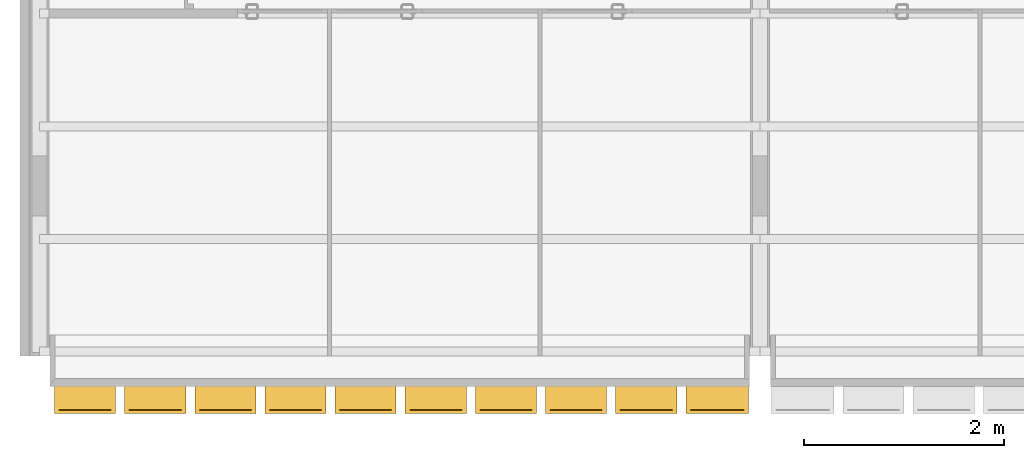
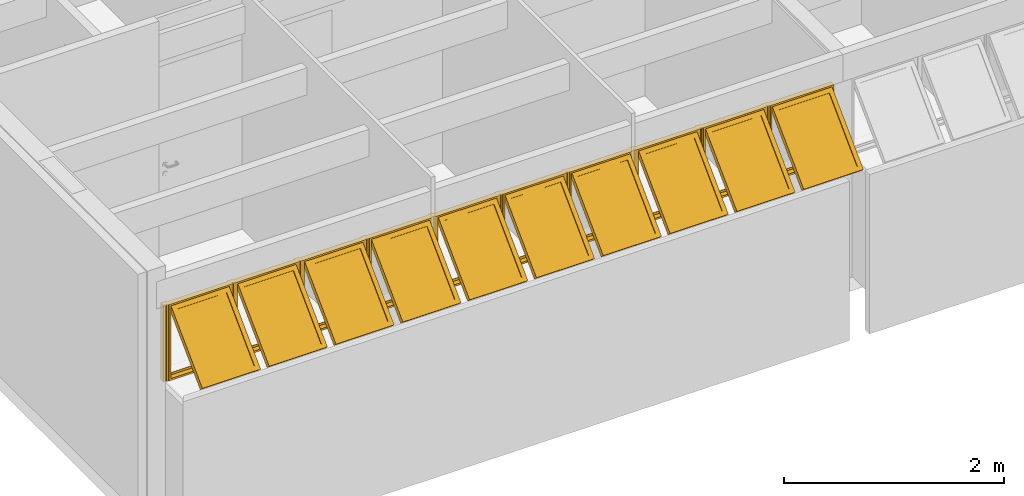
# One storey, part 15 of 22: 1 window.
"""IFC2X3 building model written with IfcOpenShell, lengths in millimetres."""

from ifc_helpers import new_model, si_unit, direction, frame, frame_2d, origin_with_axes, origin_2d_with_axis, place, context, subcontext, project, spatial, polyline, rectangle, outline, extrude, source, transform, mapped, type_object, type_shapes, element, save


model = new_model("IFC2X3")

# Units and contexts
model_context = context("Model", 3, precision=1e-05, world=origin_with_axes(), true_north=direction((0.0, 1.0)))
body_context = subcontext(model_context, "Body", "Model", "MODEL_VIEW")
ifc_project = project(units=[si_unit("LENGTHUNIT", "METRE", prefix="MILLI"), si_unit("AREAUNIT", "SQUARE_METRE"), si_unit("VOLUMEUNIT", "CUBIC_METRE"), si_unit("PLANEANGLEUNIT", "RADIAN"), si_unit("TIMEUNIT", "SECOND"), si_unit("MASSUNIT", "GRAM")], contexts=[model_context])

# Site, building, storey
site_placement = place(None, origin_with_axes())
site = spatial("IfcSite", under=ifc_project, at=site_placement, Name="Site", CompositionType="ELEMENT")
building_placement = place(site_placement, origin_with_axes())
building = spatial("IfcBuilding", under=site, at=building_placement, Name="Construção", CompositionType="COMPLEX")
storey_placement = place(building_placement, frame((0.0, 0.0, 2650.0), z_axis=(0.0, 0.0, 1.0), x_axis=(1.0, 0.0, 0.0)))
storey = spatial("IfcBuildingStorey", under=building, at=storey_placement, Name="Segundo Pavimento", CompositionType="COMPLEX", Elevation=2650.0)

# Window
window_style = type_object("IfcWindowStyle", ConstructionType="NOTDEFINED", OperationType="NOTDEFINED", ParameterTakesPrecedence=False, Sizeable=False)
shared_shape_1 = source(origin_with_axes(), body_context, "Body", "SweptSolid", [
    extrude(outline(polyline([(-324.99999695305, -22.5), (-279.99999695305, 22.5), (279.99999695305, 22.5), (324.99999695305, -22.5), (-324.99999695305, -22.5)])), frame((350.00000059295, 22.5, -40.0), z_axis=(0.0, 0.0, 1.0), x_axis=(1.0, 0.0, 0.0)), (0.0, 0.0, 1.0), 5.0),
    extrude(outline(polyline([(22.5, -422.499945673), (-22.5, -377.499945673), (-22.5, 377.499945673), (22.5, 422.499945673), (22.5, -422.499945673)])), frame((652.499997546, 422.499945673, -40.0), z_axis=(0.0, 0.0, 1.0), x_axis=(1.0, 0.0, 0.0)), (0.0, 0.0, 1.0), 5.0),
    extrude(outline(polyline([(-324.9999969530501, 22.5), (324.99999695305, 22.5), (279.99999695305, -22.5), (-279.9999969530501, -22.5), (-324.9999969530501, 22.5)])), frame((350.0000005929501, 822.499891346, -40.0), z_axis=(0.0, 0.0, 1.0), x_axis=(1.0, 0.0, 0.0)), (0.0, 0.0, 1.0), 5.0),
    extrude(outline(polyline([(-22.5, -422.499945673), (-22.5, 422.499945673), (22.5, 377.499945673), (22.5, -377.499945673), (-22.5, -422.499945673)])), frame((47.5000036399, 422.499945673, -40.0), z_axis=(0.0, 0.0, 1.0), x_axis=(1.0, 0.0, 0.0)), (0.0, 0.0, 1.0), 5.0),
    extrude(outline(polyline([(-324.99999695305, -10.0), (-304.99999695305, 10.0), (304.99999695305, 10.0), (324.99999695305, -10.0), (-324.99999695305, -10.0)])), frame((350.00000059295, 10.0, -35.0), z_axis=(0.0, 0.0, 1.0), x_axis=(1.0, 0.0, 0.0)), (0.0, 0.0, 1.0), 50.0),
    extrude(outline(polyline([(10.0, -422.499945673), (-10.0, -402.499945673), (-10.0, 402.499945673), (10.0, 422.499945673), (10.0, -422.499945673)])), frame((664.999997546, 422.499945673, -35.0), z_axis=(0.0, 0.0, 1.0), x_axis=(1.0, 0.0, 0.0)), (0.0, 0.0, 1.0), 50.0),
    extrude(outline(polyline([(-324.9999969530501, 10.0), (324.99999695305, 10.0), (304.99999695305, -10.0), (-304.9999969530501, -10.0), (-324.9999969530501, 10.0)])), frame((350.0000005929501, 834.999891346, -35.0), z_axis=(0.0, 0.0, 1.0), x_axis=(1.0, 0.0, 0.0)), (0.0, 0.0, 1.0), 50.0),
    extrude(outline(polyline([(-10.0, -422.499945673), (-10.0, 422.499945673), (10.0, 402.499945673), (10.0, -402.499945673), (-10.0, -422.499945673)])), frame((35.0000036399, 422.499945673, -35.0), z_axis=(0.0, 0.0, 1.0), x_axis=(1.0, 0.0, 0.0)), (0.0, 0.0, 1.0), 50.0),
    extrude(rectangle(XDim=844.999891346, YDim=19.99999787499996, at=frame_2d((0.0, 0.0), x_axis=(0.0, 1.0))), frame((684.9999964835, 422.499945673, -10.0), z_axis=(0.0, 0.0, 1.0), x_axis=(1.0, 0.0, 0.0)), (0.0, 0.0, 1.0), 20.0),
    extrude(rectangle(XDim=844.999891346, YDim=19.99999787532, at=frame_2d((0.0, 0.0), x_axis=(0.0, 1.0))), frame((15.00000470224, 422.499945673, -10.0), z_axis=(0.0, 0.0, 1.0), x_axis=(1.0, 0.0, 0.0)), (0.0, 0.0, 1.0), 20.0),
    extrude(outline(polyline([(22.5, -357.4999456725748), (-22.5, -402.4999456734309), (-22.50000000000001, 402.4999456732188), (22.5, 357.499945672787), (22.5, -357.4999456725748)])), frame((67.5000036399, 505.034111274, 264.2551019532), z_axis=(4.714640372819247e-12, 0.7071067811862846, 0.7071067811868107), x_axis=(1.0, 0.0, 0.0)), (0.0, 0.0, 1.0), 55.00000000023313),
    extrude(outline(polyline([(22.5, -402.4999456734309), (-22.5, -357.4999456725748), (-22.50000000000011, 357.499945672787), (22.5, 402.4999456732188), (22.5, -402.4999456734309)])), frame((632.499997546, 505.034111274, 264.2551019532), z_axis=(4.714640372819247e-12, 0.7071067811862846, 0.7071067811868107), x_axis=(1.0, 0.0, 0.0)), (0.0, 0.0, 1.0), 55.00000000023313),
    extrude(outline(polyline([(304.99999695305, -22.50000000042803), (-304.9999969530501, -22.50000000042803), (-259.9999969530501, 22.50000000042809), (259.99999695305, 22.50000000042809), (304.99999695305, -22.50000000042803)])), frame((350.00000059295, 236.333572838, 532.955640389), z_axis=(4.714640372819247e-12, 0.7071067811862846, 0.7071067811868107), x_axis=(1.0, 0.0, 0.0)), (0.0, 0.0, 1.0), 55.00000000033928),
    extrude(outline(polyline([(-304.9999969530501, 22.500000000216), (304.99999695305, 22.500000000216), (259.99999695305, -22.500000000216), (-259.9999969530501, -22.500000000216), (-304.9999969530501, 22.500000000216)])), frame((350.0000005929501, 773.73464971, -4.4454364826), z_axis=(4.714640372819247e-12, 0.7071067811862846, 0.7071067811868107), x_axis=(1.0, 0.0, 0.0)), (0.0, 0.0, 1.0), 55.00000000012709),
])
shared_shape_2 = source(origin_with_axes(), body_context, "Body", "SweptSolid", [
    extrude(rectangle(XDim=519.9999939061, YDim=16.00000000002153, at=origin_2d_with_axis()), frame((350.00000059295, 783.9876980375, 37.627416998), z_axis=(0.0, -0.7071067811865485, 0.7071067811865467), x_axis=(1.0, 0.0, 0.0)), (0.0, 0.0, 1.0), 714.9998913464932),
])
shared_shape_3 = source(origin_with_axes(), body_context, "Body", "MappedRepresentation", [
    mapped(shared_shape_1, transform((5900.0, 315.020977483, 4005.02054151), x_axis=(1.0, 0.0, 0.0), y_axis=(0.0, 0.0, 1.0), z_axis=(0.0, -1.0, 0.0), scale=1.0)),
    mapped(shared_shape_2, transform((5900.0, 315.020977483, 4005.02054151), x_axis=(1.0, 0.0, 0.0), y_axis=(0.0, 0.0, 1.0), z_axis=(0.0, -1.0, 0.0), scale=1.0)),
])
shared_shape_4 = source(origin_with_axes(), body_context, "Body", "SweptSolid", [
    extrude(outline(polyline([(-332.50003730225, -22.5), (-287.50003730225, 22.5), (287.50003730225, 22.5), (332.50003730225, -22.5), (-332.50003730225, -22.5)])), frame((357.50004190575, 22.5, -40.0), z_axis=(0.0, 0.0, 1.0), x_axis=(1.0, 0.0, 0.0)), (0.0, 0.0, 1.0), 5.0),
    extrude(outline(polyline([(22.5, -422.499961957), (-22.5, -377.499961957), (-22.5, 377.499961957), (22.5, 422.499961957), (22.5, -422.499961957)])), frame((667.500079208, 422.499961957, -40.0), z_axis=(0.0, 0.0, 1.0), x_axis=(1.0, 0.0, 0.0)), (0.0, 0.0, 1.0), 5.0),
    extrude(outline(polyline([(-332.50003730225, 22.5), (332.50003730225, 22.5), (287.50003730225, -22.5), (-287.50003730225, -22.5), (-332.50003730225, 22.5)])), frame((357.50004190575, 822.499923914, -40.0), z_axis=(0.0, 0.0, 1.0), x_axis=(1.0, 0.0, 0.0)), (0.0, 0.0, 1.0), 5.0),
    extrude(outline(polyline([(-22.5, -422.499961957), (-22.5, 422.499961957), (22.5, 377.499961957), (22.5, -377.499961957), (-22.5, -422.499961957)])), frame((47.5000046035, 422.499961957, -40.0), z_axis=(0.0, 0.0, 1.0), x_axis=(1.0, 0.0, 0.0)), (0.0, 0.0, 1.0), 5.0),
    extrude(outline(polyline([(-332.50003730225, -10.0), (-312.50003730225, 10.0), (312.50003730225, 10.0), (332.50003730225, -10.0), (-332.50003730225, -10.0)])), frame((357.50004190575, 10.0, -35.0), z_axis=(0.0, 0.0, 1.0), x_axis=(1.0, 0.0, 0.0)), (0.0, 0.0, 1.0), 50.0),
    extrude(outline(polyline([(10.0, -422.499961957), (-10.0, -402.499961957), (-10.0, 402.499961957), (10.0, 422.499961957), (10.0, -422.499961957)])), frame((680.000079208, 422.499961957, -35.0), z_axis=(0.0, 0.0, 1.0), x_axis=(1.0, 0.0, 0.0)), (0.0, 0.0, 1.0), 50.0),
    extrude(outline(polyline([(-332.50003730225, 10.0), (332.50003730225, 10.0), (312.50003730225, -10.0), (-312.50003730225, -10.0), (-332.50003730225, 10.0)])), frame((357.50004190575, 834.999923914, -35.0), z_axis=(0.0, 0.0, 1.0), x_axis=(1.0, 0.0, 0.0)), (0.0, 0.0, 1.0), 50.0),
    extrude(outline(polyline([(-10.0, -422.499961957), (-10.0, 422.499961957), (10.0, 402.499961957), (10.0, -402.499961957), (-10.0, -422.499961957)])), frame((35.0000046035, 422.499961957, -35.0), z_axis=(0.0, 0.0, 1.0), x_axis=(1.0, 0.0, 0.0)), (0.0, 0.0, 1.0), 50.0),
    extrude(rectangle(XDim=844.999923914, YDim=19.99999864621, at=frame_2d((0.0, 0.0), x_axis=(0.0, 1.0))), frame((15.000005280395, 422.499961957, -10.0), z_axis=(0.0, 0.0, 1.0), x_axis=(1.0, 0.0, 0.0)), (0.0, 0.0, 1.0), 20.0),
    extrude(outline(polyline([(22.5, -357.49996195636), (-22.50000000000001, -402.4999619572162), (-22.50000000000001, 402.4999619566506), (22.49999999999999, 357.4999619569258), (22.5, -357.49996195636)])), frame((67.5000046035, 505.0341323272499, 264.2551134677), z_axis=(4.714640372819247e-12, 0.7071067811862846, 0.7071067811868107), x_axis=(1.0, 0.0, 0.0)), (0.0, 0.0, 1.0), 54.99999999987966),
    extrude(outline(polyline([(22.5, -402.4999619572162), (-22.50000000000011, -357.4999619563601), (-22.50000000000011, 357.4999619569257), (22.5, 402.4999619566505), (22.5, -402.4999619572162)])), frame((647.500079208, 505.03413232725, 264.2551134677), z_axis=(4.714640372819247e-12, 0.7071067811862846, 0.7071067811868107), x_axis=(1.0, 0.0, 0.0)), (0.0, 0.0, 1.0), 54.99999999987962),
    extrude(outline(polyline([(312.50003730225, -22.50000000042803), (-312.50003730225, -22.50000000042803), (-267.50003730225, 22.50000000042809), (267.50003730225, 22.50000000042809), (312.50003730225, -22.50000000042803)])), frame((357.50004190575, 236.333582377, 532.955663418), z_axis=(4.714640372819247e-12, 0.7071067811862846, 0.7071067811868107), x_axis=(1.0, 0.0, 0.0)), (0.0, 0.0, 1.0), 54.9999999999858),
    extrude(outline(polyline([(-312.50003730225, 22.49999999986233), (312.50003730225, 22.49999999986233), (267.50003730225, -22.49999999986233), (-267.50003730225, -22.49999999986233), (-312.50003730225, 22.49999999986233)])), frame((357.50004190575, 773.7346822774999, -4.4454364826), z_axis=(4.714640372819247e-12, 0.7071067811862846, 0.7071067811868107), x_axis=(1.0, 0.0, 0.0)), (0.0, 0.0, 1.0), 54.99999999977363),
])
shared_shape_5 = source(origin_with_axes(), body_context, "Body", "SweptSolid", [
    extrude(rectangle(XDim=535.0000746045, YDim=16.00000000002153, at=origin_2d_with_axis()), frame((357.50004190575, 783.9877306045, 37.627416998), z_axis=(0.0, -0.7071067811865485, 0.7071067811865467), x_axis=(1.0, 0.0, 0.0)), (0.0, 0.0, 1.0), 714.9999239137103),
])
shared_shape_6 = source(origin_with_axes(), body_context, "Body", "MappedRepresentation", [
    mapped(shared_shape_4, transform((6600.0, 315.020977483, 4005.020541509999), x_axis=(1.0, 0.0, 0.0), y_axis=(0.0, 0.0, 1.0), z_axis=(0.0, -1.0, 0.0), scale=1.0)),
    mapped(shared_shape_5, transform((6600.0, 315.020977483, 4005.020541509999), x_axis=(1.0, 0.0, 0.0), y_axis=(0.0, 0.0, 1.0), z_axis=(0.0, -1.0, 0.0), scale=1.0)),
])
shared_shape_7 = source(origin_with_axes(), body_context, "Body", "SweptSolid", [
    extrude(outline(polyline([(-324.99999695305, -22.5), (-279.99999695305, 22.5), (279.99999695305, 22.5), (324.99999695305, -22.5), (-324.99999695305, -22.5)])), frame((350.00000059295, 22.5, -40.0), z_axis=(0.0, 0.0, 1.0), x_axis=(1.0, 0.0, 0.0)), (0.0, 0.0, 1.0), 5.0),
    extrude(outline(polyline([(22.5, -422.499945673), (-22.5, -377.499945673), (-22.5, 377.499945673), (22.5, 422.499945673), (22.5, -422.499945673)])), frame((652.499997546, 422.499945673, -40.0), z_axis=(0.0, 0.0, 1.0), x_axis=(1.0, 0.0, 0.0)), (0.0, 0.0, 1.0), 5.0),
    extrude(outline(polyline([(-324.9999969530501, 22.5), (324.99999695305, 22.5), (279.99999695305, -22.5), (-279.9999969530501, -22.5), (-324.9999969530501, 22.5)])), frame((350.0000005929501, 822.499891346, -40.0), z_axis=(0.0, 0.0, 1.0), x_axis=(1.0, 0.0, 0.0)), (0.0, 0.0, 1.0), 5.0),
    extrude(outline(polyline([(-22.5, -422.499945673), (-22.5, 422.499945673), (22.5, 377.499945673), (22.5, -377.499945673), (-22.5, -422.499945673)])), frame((47.5000036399, 422.499945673, -40.0), z_axis=(0.0, 0.0, 1.0), x_axis=(1.0, 0.0, 0.0)), (0.0, 0.0, 1.0), 5.0),
    extrude(outline(polyline([(-324.99999695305, -10.0), (-304.99999695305, 10.0), (304.99999695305, 10.0), (324.99999695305, -10.0), (-324.99999695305, -10.0)])), frame((350.00000059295, 10.0, -35.0), z_axis=(0.0, 0.0, 1.0), x_axis=(1.0, 0.0, 0.0)), (0.0, 0.0, 1.0), 50.0),
    extrude(outline(polyline([(10.0, -422.499945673), (-10.0, -402.499945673), (-10.0, 402.499945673), (10.0, 422.499945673), (10.0, -422.499945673)])), frame((664.999997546, 422.499945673, -35.0), z_axis=(0.0, 0.0, 1.0), x_axis=(1.0, 0.0, 0.0)), (0.0, 0.0, 1.0), 50.0),
    extrude(outline(polyline([(-324.9999969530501, 10.0), (324.99999695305, 10.0), (304.99999695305, -10.0), (-304.9999969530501, -10.0), (-324.9999969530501, 10.0)])), frame((350.0000005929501, 834.999891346, -35.0), z_axis=(0.0, 0.0, 1.0), x_axis=(1.0, 0.0, 0.0)), (0.0, 0.0, 1.0), 50.0),
    extrude(outline(polyline([(-10.0, -422.499945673), (-10.0, 422.499945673), (10.0, 402.499945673), (10.0, -402.499945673), (-10.0, -422.499945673)])), frame((35.0000036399, 422.499945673, -35.0), z_axis=(0.0, 0.0, 1.0), x_axis=(1.0, 0.0, 0.0)), (0.0, 0.0, 1.0), 50.0),
    extrude(rectangle(XDim=844.999891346, YDim=19.99999787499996, at=frame_2d((0.0, 0.0), x_axis=(0.0, 1.0))), frame((684.9999964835, 422.499945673, -10.0), z_axis=(0.0, 0.0, 1.0), x_axis=(1.0, 0.0, 0.0)), (0.0, 0.0, 1.0), 20.0),
    extrude(rectangle(XDim=844.999891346, YDim=19.99999787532, at=frame_2d((0.0, 0.0), x_axis=(0.0, 1.0))), frame((15.00000470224, 422.499945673, -10.0), z_axis=(0.0, 0.0, 1.0), x_axis=(1.0, 0.0, 0.0)), (0.0, 0.0, 1.0), 20.0),
    extrude(outline(polyline([(22.5, -357.4999456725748), (-22.5, -402.4999456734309), (-22.50000000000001, 402.4999456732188), (22.5, 357.499945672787), (22.5, -357.4999456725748)])), frame((67.5000036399, 505.034111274, 264.2551019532), z_axis=(4.714640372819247e-12, 0.7071067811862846, 0.7071067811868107), x_axis=(1.0, 0.0, 0.0)), (0.0, 0.0, 1.0), 55.00000000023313),
    extrude(outline(polyline([(22.5, -402.4999456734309), (-22.5, -357.4999456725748), (-22.50000000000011, 357.499945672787), (22.5, 402.4999456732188), (22.5, -402.4999456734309)])), frame((632.499997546, 505.034111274, 264.2551019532), z_axis=(4.714640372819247e-12, 0.7071067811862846, 0.7071067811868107), x_axis=(1.0, 0.0, 0.0)), (0.0, 0.0, 1.0), 55.00000000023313),
    extrude(outline(polyline([(304.99999695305, -22.50000000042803), (-304.9999969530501, -22.50000000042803), (-259.9999969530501, 22.50000000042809), (259.99999695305, 22.50000000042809), (304.99999695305, -22.50000000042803)])), frame((350.00000059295, 236.333572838, 532.955640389), z_axis=(4.714640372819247e-12, 0.7071067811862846, 0.7071067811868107), x_axis=(1.0, 0.0, 0.0)), (0.0, 0.0, 1.0), 55.00000000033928),
    extrude(outline(polyline([(-304.9999969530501, 22.500000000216), (304.99999695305, 22.500000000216), (259.99999695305, -22.500000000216), (-259.9999969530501, -22.500000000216), (-304.9999969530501, 22.500000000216)])), frame((350.0000005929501, 773.73464971, -4.4454364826), z_axis=(4.714640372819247e-12, 0.7071067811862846, 0.7071067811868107), x_axis=(1.0, 0.0, 0.0)), (0.0, 0.0, 1.0), 55.00000000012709),
])
shared_shape_8 = source(origin_with_axes(), body_context, "Body", "SweptSolid", [
    extrude(rectangle(XDim=519.9999939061, YDim=16.00000000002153, at=origin_2d_with_axis()), frame((350.00000059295, 783.9876980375, 37.627416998), z_axis=(0.0, -0.7071067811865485, 0.7071067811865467), x_axis=(1.0, 0.0, 0.0)), (0.0, 0.0, 1.0), 714.9998913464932),
])
shared_shape_9 = source(origin_with_axes(), body_context, "Body", "MappedRepresentation", [
    mapped(shared_shape_7, transform((300.0, 315.020977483, 4005.02054151), x_axis=(1.0, 0.0, 0.0), y_axis=(0.0, 0.0, 1.0), z_axis=(0.0, -1.0, 0.0), scale=1.0)),
    mapped(shared_shape_8, transform((300.0, 315.020977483, 4005.02054151), x_axis=(1.0, 0.0, 0.0), y_axis=(0.0, 0.0, 1.0), z_axis=(0.0, -1.0, 0.0), scale=1.0)),
])
shared_shape_10 = source(origin_with_axes(), body_context, "Body", "MappedRepresentation", [
    mapped(shared_shape_7, transform((1000.0, 315.020977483, 4005.02054151), x_axis=(1.0, 0.0, 0.0), y_axis=(0.0, 0.0, 1.0), z_axis=(0.0, -1.0, 0.0), scale=1.0)),
    mapped(shared_shape_8, transform((1000.0, 315.020977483, 4005.02054151), x_axis=(1.0, 0.0, 0.0), y_axis=(0.0, 0.0, 1.0), z_axis=(0.0, -1.0, 0.0), scale=1.0)),
])
shared_shape_11 = source(origin_with_axes(), body_context, "Body", "SweptSolid", [
    extrude(outline(polyline([(-324.99999695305, -22.5), (-279.99999695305, 22.5), (279.99999695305, 22.5), (324.99999695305, -22.5), (-324.99999695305, -22.5)])), frame((350.00000059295, 22.5, -40.0), z_axis=(0.0, 0.0, 1.0), x_axis=(1.0, 0.0, 0.0)), (0.0, 0.0, 1.0), 5.0),
    extrude(outline(polyline([(22.5, -422.499945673), (-22.5, -377.499945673), (-22.5, 377.499945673), (22.5, 422.499945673), (22.5, -422.499945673)])), frame((652.499997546, 422.499945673, -40.0), z_axis=(0.0, 0.0, 1.0), x_axis=(1.0, 0.0, 0.0)), (0.0, 0.0, 1.0), 5.0),
    extrude(outline(polyline([(-324.9999969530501, 22.5), (324.99999695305, 22.5), (279.99999695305, -22.5), (-279.9999969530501, -22.5), (-324.9999969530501, 22.5)])), frame((350.0000005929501, 822.499891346, -40.0), z_axis=(0.0, 0.0, 1.0), x_axis=(1.0, 0.0, 0.0)), (0.0, 0.0, 1.0), 5.0),
    extrude(outline(polyline([(-22.5, -422.499945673), (-22.5, 422.499945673), (22.5, 377.499945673), (22.5, -377.499945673), (-22.5, -422.499945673)])), frame((47.5000036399, 422.499945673, -40.0), z_axis=(0.0, 0.0, 1.0), x_axis=(1.0, 0.0, 0.0)), (0.0, 0.0, 1.0), 5.0),
    extrude(outline(polyline([(-324.99999695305, -10.0), (-304.99999695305, 10.0), (304.99999695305, 10.0), (324.99999695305, -10.0), (-324.99999695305, -10.0)])), frame((350.00000059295, 10.0, -35.0), z_axis=(0.0, 0.0, 1.0), x_axis=(1.0, 0.0, 0.0)), (0.0, 0.0, 1.0), 50.0),
    extrude(outline(polyline([(10.0, -422.499945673), (-10.0, -402.499945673), (-10.0, 402.499945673), (10.0, 422.499945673), (10.0, -422.499945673)])), frame((664.999997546, 422.499945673, -35.0), z_axis=(0.0, 0.0, 1.0), x_axis=(1.0, 0.0, 0.0)), (0.0, 0.0, 1.0), 50.0),
    extrude(outline(polyline([(-324.9999969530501, 10.0), (324.99999695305, 10.0), (304.99999695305, -10.0), (-304.9999969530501, -10.0), (-324.9999969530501, 10.0)])), frame((350.0000005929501, 834.999891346, -35.0), z_axis=(0.0, 0.0, 1.0), x_axis=(1.0, 0.0, 0.0)), (0.0, 0.0, 1.0), 50.0),
    extrude(outline(polyline([(-10.0, -422.499945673), (-10.0, 422.499945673), (10.0, 402.499945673), (10.0, -402.499945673), (-10.0, -422.499945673)])), frame((35.0000036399, 422.499945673, -35.0), z_axis=(0.0, 0.0, 1.0), x_axis=(1.0, 0.0, 0.0)), (0.0, 0.0, 1.0), 50.0),
    extrude(rectangle(XDim=844.999891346, YDim=19.99999787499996, at=frame_2d((0.0, 0.0), x_axis=(0.0, 1.0))), frame((684.9999964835, 422.499945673, -10.0), z_axis=(0.0, 0.0, 1.0), x_axis=(1.0, 0.0, 0.0)), (0.0, 0.0, 1.0), 20.0),
    extrude(rectangle(XDim=844.999891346, YDim=19.99999787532, at=frame_2d((0.0, 0.0), x_axis=(0.0, 1.0))), frame((15.00000470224, 422.499945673, -10.0), z_axis=(0.0, 0.0, 1.0), x_axis=(1.0, 0.0, 0.0)), (0.0, 0.0, 1.0), 20.0),
    extrude(outline(polyline([(22.5, -357.4999456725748), (-22.5, -402.4999456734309), (-22.50000000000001, 402.4999456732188), (22.5, 357.499945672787), (22.5, -357.4999456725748)])), frame((67.5000036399, 505.034111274, 264.2551019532), z_axis=(4.714640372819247e-12, 0.7071067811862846, 0.7071067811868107), x_axis=(1.0, 0.0, 0.0)), (0.0, 0.0, 1.0), 55.00000000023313),
    extrude(outline(polyline([(22.5, -402.4999456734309), (-22.5, -357.4999456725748), (-22.50000000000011, 357.499945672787), (22.5, 402.4999456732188), (22.5, -402.4999456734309)])), frame((632.499997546, 505.034111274, 264.2551019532), z_axis=(4.714640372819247e-12, 0.7071067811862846, 0.7071067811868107), x_axis=(1.0, 0.0, 0.0)), (0.0, 0.0, 1.0), 55.00000000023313),
    extrude(outline(polyline([(304.99999695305, -22.50000000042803), (-304.9999969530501, -22.50000000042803), (-259.9999969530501, 22.50000000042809), (259.99999695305, 22.50000000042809), (304.99999695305, -22.50000000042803)])), frame((350.00000059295, 236.333572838, 532.955640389), z_axis=(4.714640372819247e-12, 0.7071067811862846, 0.7071067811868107), x_axis=(1.0, 0.0, 0.0)), (0.0, 0.0, 1.0), 55.00000000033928),
    extrude(outline(polyline([(-304.9999969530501, 22.500000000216), (304.99999695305, 22.500000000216), (259.99999695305, -22.500000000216), (-259.9999969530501, -22.500000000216), (-304.9999969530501, 22.500000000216)])), frame((350.0000005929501, 773.73464971, -4.4454364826), z_axis=(4.714640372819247e-12, 0.7071067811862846, 0.7071067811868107), x_axis=(1.0, 0.0, 0.0)), (0.0, 0.0, 1.0), 55.00000000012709),
])
shared_shape_12 = source(origin_with_axes(), body_context, "Body", "SweptSolid", [
    extrude(rectangle(XDim=519.9999939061, YDim=16.00000000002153, at=origin_2d_with_axis()), frame((350.00000059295, 783.9876980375, 37.627416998), z_axis=(0.0, -0.7071067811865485, 0.7071067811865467), x_axis=(1.0, 0.0, 0.0)), (0.0, 0.0, 1.0), 714.9998913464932),
])
shared_shape_13 = source(origin_with_axes(), body_context, "Body", "MappedRepresentation", [
    mapped(shared_shape_11, transform((3100.0, 315.020977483, 4005.02054151), x_axis=(1.0, 0.0, 0.0), y_axis=(0.0, 0.0, 1.0), z_axis=(0.0, -1.0, 0.0), scale=1.0)),
    mapped(shared_shape_12, transform((3100.0, 315.020977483, 4005.02054151), x_axis=(1.0, 0.0, 0.0), y_axis=(0.0, 0.0, 1.0), z_axis=(0.0, -1.0, 0.0), scale=1.0)),
])
shared_shape_14 = source(origin_with_axes(), body_context, "Body", "MappedRepresentation", [
    mapped(shared_shape_7, transform((3800.0, 315.020977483, 4005.02054151), x_axis=(1.0, 0.0, 0.0), y_axis=(0.0, 0.0, 1.0), z_axis=(0.0, -1.0, 0.0), scale=1.0)),
    mapped(shared_shape_8, transform((3800.0, 315.020977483, 4005.02054151), x_axis=(1.0, 0.0, 0.0), y_axis=(0.0, 0.0, 1.0), z_axis=(0.0, -1.0, 0.0), scale=1.0)),
])
shared_shape_15 = source(origin_with_axes(), body_context, "Body", "MappedRepresentation", [
    mapped(shared_shape_1, transform((5200.0, 315.020977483, 4005.02054151), x_axis=(1.0, 0.0, 0.0), y_axis=(0.0, 0.0, 1.0), z_axis=(0.0, -1.0, 0.0), scale=1.0)),
    mapped(shared_shape_2, transform((5200.0, 315.020977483, 4005.02054151), x_axis=(1.0, 0.0, 0.0), y_axis=(0.0, 0.0, 1.0), z_axis=(0.0, -1.0, 0.0), scale=1.0)),
])
shared_shape_16 = source(origin_with_axes(), body_context, "Body", "MappedRepresentation", [
    mapped(shared_shape_11, transform((1700.0, 315.020977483, 4005.02054151), x_axis=(1.0, 0.0, 0.0), y_axis=(0.0, 0.0, 1.0), z_axis=(0.0, -1.0, 0.0), scale=1.0)),
    mapped(shared_shape_12, transform((1700.0, 315.020977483, 4005.02054151), x_axis=(1.0, 0.0, 0.0), y_axis=(0.0, 0.0, 1.0), z_axis=(0.0, -1.0, 0.0), scale=1.0)),
])
shared_shape_17 = source(origin_with_axes(), body_context, "Body", "MappedRepresentation", [
    mapped(shared_shape_1, transform((4500.0, 315.020977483, 4005.02054151), x_axis=(1.0, 0.0, 0.0), y_axis=(0.0, 0.0, 1.0), z_axis=(0.0, -1.0, 0.0), scale=1.0)),
    mapped(shared_shape_2, transform((4500.0, 315.020977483, 4005.02054151), x_axis=(1.0, 0.0, 0.0), y_axis=(0.0, 0.0, 1.0), z_axis=(0.0, -1.0, 0.0), scale=1.0)),
])
shared_shape_18 = source(origin_with_axes(), body_context, "Body", "MappedRepresentation", [
    mapped(shared_shape_1, transform((2400.0, 315.020977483, 4005.02054151), x_axis=(1.0, 0.0, 0.0), y_axis=(0.0, 0.0, 1.0), z_axis=(0.0, -1.0, 0.0), scale=1.0)),
    mapped(shared_shape_2, transform((2400.0, 315.020977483, 4005.02054151), x_axis=(1.0, 0.0, 0.0), y_axis=(0.0, 0.0, 1.0), z_axis=(0.0, -1.0, 0.0), scale=1.0)),
])
shared_shape_19 = source(origin_with_axes(), body_context, "Body", "SweptSolid", [
    extrude(rectangle(XDim=844.999891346, YDim=50.0, at=frame_2d((0.0, 0.0), x_axis=(0.0, 1.0))), frame((3490.000079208, 422.4999456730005, -50.0), z_axis=(0.0, 0.0, 1.0), x_axis=(1.0, 0.0, 0.0)), (0.0, 0.0, 1.0), 50.0),
])
shared_shape_20 = source(origin_with_axes(), body_context, "Body", "SweptSolid", [
    extrude(rectangle(XDim=844.999891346, YDim=50.0, at=frame_2d((0.0, 0.0), x_axis=(0.0, 1.0))), frame((2790.000079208, 422.4999456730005, -50.0), z_axis=(0.0, 0.0, 1.0), x_axis=(1.0, 0.0, 0.0)), (0.0, 0.0, 1.0), 50.0),
])
shared_shape_21 = source(origin_with_axes(), body_context, "Body", "SweptSolid", [
    extrude(rectangle(XDim=844.999891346, YDim=50.0, at=frame_2d((0.0, 0.0), x_axis=(0.0, 1.0))), frame((2090.000079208, 422.4999456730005, -50.0), z_axis=(0.0, 0.0, 1.0), x_axis=(1.0, 0.0, 0.0)), (0.0, 0.0, 1.0), 50.0),
])
shared_shape_22 = source(origin_with_axes(), body_context, "Body", "SweptSolid", [
    extrude(rectangle(XDim=844.999891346, YDim=50.0, at=frame_2d((0.0, 0.0), x_axis=(0.0, 1.0))), frame((4890.000079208, 422.4999456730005, -50.0), z_axis=(0.0, 0.0, 1.0), x_axis=(1.0, 0.0, 0.0)), (0.0, 0.0, 1.0), 50.0),
])
shared_shape_23 = source(origin_with_axes(), body_context, "Body", "SweptSolid", [
    extrude(rectangle(XDim=844.999891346, YDim=50.0, at=frame_2d((0.0, 0.0), x_axis=(0.0, 1.0))), frame((1390.000079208, 422.4999456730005, -50.0), z_axis=(0.0, 0.0, 1.0), x_axis=(1.0, 0.0, 0.0)), (0.0, 0.0, 1.0), 50.0),
])
shared_shape_24 = source(origin_with_axes(), body_context, "Body", "SweptSolid", [
    extrude(rectangle(XDim=844.999891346, YDim=50.0, at=frame_2d((0.0, 0.0), x_axis=(0.0, 1.0))), frame((690.000079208, 422.4999456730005, -50.0), z_axis=(0.0, 0.0, 1.0), x_axis=(1.0, 0.0, 0.0)), (0.0, 0.0, 1.0), 50.0),
])
shared_shape_25 = source(origin_with_axes(), body_context, "Body", "SweptSolid", [
    extrude(rectangle(XDim=844.999891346, YDim=50.0, at=frame_2d((0.0, 0.0), x_axis=(0.0, 1.0))), frame((6990.000079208, 422.4999456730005, -50.0), z_axis=(0.0, 0.0, 1.0), x_axis=(1.0, 0.0, 0.0)), (0.0, 0.0, 1.0), 50.0),
])
shared_shape_26 = source(origin_with_axes(), body_context, "Body", "SweptSolid", [
    extrude(rectangle(XDim=844.999891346, YDim=50.0, at=frame_2d((0.0, 0.0), x_axis=(0.0, 1.0))), frame((4190.000079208, 422.4999456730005, -50.0), z_axis=(0.0, 0.0, 1.0), x_axis=(1.0, 0.0, 0.0)), (0.0, 0.0, 1.0), 50.0),
])
shared_shape_27 = source(origin_with_axes(), body_context, "Body", "SweptSolid", [
    extrude(rectangle(XDim=844.999891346, YDim=50.0, at=frame_2d((0.0, 0.0), x_axis=(0.0, 1.0))), frame((5590.000079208, 422.4999456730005, -50.0), z_axis=(0.0, 0.0, 1.0), x_axis=(1.0, 0.0, 0.0)), (0.0, 0.0, 1.0), 50.0),
])
shared_shape_28 = source(origin_with_axes(), body_context, "Body", "SweptSolid", [
    extrude(rectangle(XDim=844.999891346, YDim=50.0, at=frame_2d((0.0, 0.0), x_axis=(0.0, 1.0))), frame((6290.000079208, 422.4999456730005, -50.0), z_axis=(0.0, 0.0, 1.0), x_axis=(1.0, 0.0, 0.0)), (0.0, 0.0, 1.0), 50.0),
])
shared_shape_29 = source(origin_with_axes(), body_context, "Body", "MappedRepresentation", [
    mapped(shared_shape_3, transform((7290.000079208, -4005.020541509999, -365.020977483), x_axis=(-1.0, 0.0, 0.0), y_axis=(0.0, 0.0, 1.0), z_axis=(0.0, 1.0, 0.0), scale=1.0)),
    mapped(shared_shape_6, transform((7290.000079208, -4005.020541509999, -365.020977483), x_axis=(-1.0, 0.0, 0.0), y_axis=(0.0, 0.0, 1.0), z_axis=(0.0, 1.0, 0.0), scale=1.0)),
    mapped(shared_shape_9, transform((7290.000079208, -4005.020541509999, -365.020977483), x_axis=(-1.0, 0.0, 0.0), y_axis=(0.0, 0.0, 1.0), z_axis=(0.0, 1.0, 0.0), scale=1.0)),
    mapped(shared_shape_10, transform((7290.000079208, -4005.020541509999, -365.020977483), x_axis=(-1.0, 0.0, 0.0), y_axis=(0.0, 0.0, 1.0), z_axis=(0.0, 1.0, 0.0), scale=1.0)),
    mapped(shared_shape_13, transform((7290.000079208, -4005.020541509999, -365.020977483), x_axis=(-1.0, 0.0, 0.0), y_axis=(0.0, 0.0, 1.0), z_axis=(0.0, 1.0, 0.0), scale=1.0)),
    mapped(shared_shape_14, transform((7290.000079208, -4005.020541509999, -365.020977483), x_axis=(-1.0, 0.0, 0.0), y_axis=(0.0, 0.0, 1.0), z_axis=(0.0, 1.0, 0.0), scale=1.0)),
    mapped(shared_shape_15, transform((7290.000079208, -4005.020541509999, -365.020977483), x_axis=(-1.0, 0.0, 0.0), y_axis=(0.0, 0.0, 1.0), z_axis=(0.0, 1.0, 0.0), scale=1.0)),
    mapped(shared_shape_16, transform((7290.000079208, -4005.020541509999, -365.020977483), x_axis=(-1.0, 0.0, 0.0), y_axis=(0.0, 0.0, 1.0), z_axis=(0.0, 1.0, 0.0), scale=1.0)),
    mapped(shared_shape_17, transform((7290.000079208, -4005.020541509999, -365.020977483), x_axis=(-1.0, 0.0, 0.0), y_axis=(0.0, 0.0, 1.0), z_axis=(0.0, 1.0, 0.0), scale=1.0)),
    mapped(shared_shape_18, transform((7290.000079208, -4005.020541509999, -365.020977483), x_axis=(-1.0, 0.0, 0.0), y_axis=(0.0, 0.0, 1.0), z_axis=(0.0, 1.0, 0.0), scale=1.0)),
    mapped(shared_shape_19, transform((0.0, 0.0, 0.0))),
    mapped(shared_shape_20, transform((0.0, 0.0, 0.0))),
    mapped(shared_shape_21, transform((0.0, 0.0, 0.0))),
    mapped(shared_shape_22, transform((0.0, 0.0, 0.0))),
    mapped(shared_shape_23, transform((0.0, 0.0, 0.0))),
    mapped(shared_shape_24, transform((0.0, 0.0, 0.0))),
    mapped(shared_shape_25, transform((0.0, 0.0, 0.0))),
    mapped(shared_shape_26, transform((0.0, 0.0, 0.0))),
    mapped(shared_shape_27, transform((0.0, 0.0, 0.0))),
    mapped(shared_shape_28, transform((0.0, 0.0, 0.0))),
])
type_shapes(window_style, [shared_shape_29])
window_placement = place(storey_placement, frame((7290.000079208, 365.020977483, 1355.020541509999), z_axis=(0.0, 0.0, 1.0), x_axis=(-1.0, 0.0, 0.0)))
element("IfcWindow", 1, at=window_placement, inside=storey, type_object=window_style, Name="APTO5-JANELA-001", context=body_context, shape_type="MappedRepresentation", body=[
    mapped(shared_shape_29, transform((0.0, 0.0, 0.0), x_axis=(1.0, 0.0, 0.0), y_axis=(0.0, 0.0, 1.0), z_axis=(0.0, -1.0, 0.0), scale=1.0)),
])

save(model, "model.ifc")
